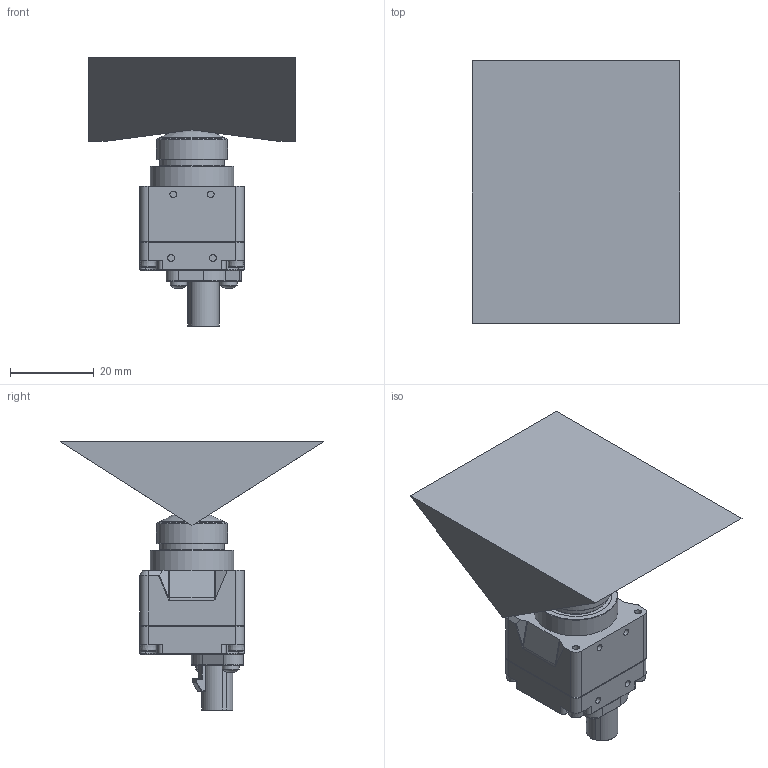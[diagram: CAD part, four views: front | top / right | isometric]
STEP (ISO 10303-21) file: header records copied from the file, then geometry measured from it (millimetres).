
FILE_DESCRIPTION(/* description */ ('STEP AP242 Edition 2','CAx-IF Rec.Pracs.---Representation and Presentation of Product Manufacturing Information (PMI)---4.0---2014-10-13','CAx-IF Rec.Pracs.---3D Tessellated Geometry---0.4---2014-09-14','2;1','CAx-IF Rec.Pracs.---User Defined Attributes---1.5---2016-08-15'),/* implementation_level */ '2;1');
FILE_NAME(/* name */ '6936da80890fa9b400847af6',/* time_stamp */ '2025-12-08T14:02:42Z',/* author */ (''),/* organization */ (''),/* preprocessor_version */ 'ST-DEVELOPER v20',/* originating_system */ 'ONSHAPE BY PTC INC, 1.207',/* authorisation */ ' ');
FILE_SCHEMA (('AP242_MANAGED_MODEL_BASED_3D_ENGINEERING_MIM_LF { 1 0 10303 442 3 1 4 }'));
Length unit declared in the file: metre
Products named in the file (12): ZED X One GS Compact; Camera Component - Body ZED X One - Rear; Hexalobular socket head cap screw ISO14579 M2x0.4x10; Hexalobular socket pan head screw ISO 14583 M2x5; Fisheye lens <1>; Infrared filter; Fisheye lens; Image plane; Simple FOV; Camera Component - Connector - FAKRA Plug; Camera Component - Seal - ZED X One; Camera Component - Body ZED X One - Front
Assembly tree (15 placements, depth 3):
  ZED X One GS Compact
    Camera Component - Body ZED X One - Rear
    Hexalobular socket head cap screw ISO14579 M2x0.4x10  x4
    Hexalobular socket pan head screw ISO 14583 M2x5  x2
    Fisheye lens <1>
      Infrared filter
      Fisheye lens
      Image plane
      Simple FOV
    Camera Component - Connector - FAKRA Plug
    Camera Component - Seal - ZED X One
    Camera Component - Body ZED X One - Front
Bounding box: 49.57 x 62.79 x 64.25 mm (x, y, z)
Volume: 41518.6 mm3; surface area: 18282.3 mm2
Topology: 14 solids, 14 shells, 870 faces, 2244 edges, 1446 vertices
Faces by surface type: cylinder 330, plane 323, cone 163, torus 37, bspline 10, sphere 7
Full cylindrical faces by diameter (mm): 0.5 x1, 0.55 x1, 0.95 x3, 1.2 x1, 1.6 x2, 1.623 x10, 1.754 x6, 2 x6, 2.03 x1, 2.1 x4, 2.2 x1, 2.4 x2, 2.45 x1, 3.685 x1, 3.8 x1, 4 x2, 4.35 x1, 5.3 x1, 5.4 x1, 6 x1, 6.2 x1, 6.3 x1, 6.5 x1, 6.6 x1, 8.62 x1, 9.6 x1, 10.8 x2, 11.529 x1, 14 x1, 15.195 x1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
Entity records: 24944 total; most frequent: CARTESIAN_POINT 6478, DIRECTION 3869, ORIENTED_EDGE 3640, EDGE_CURVE 1820, AXIS2_PLACEMENT_3D 1431, VERTEX_POINT 1237, LINE 1007, VECTOR 1007
